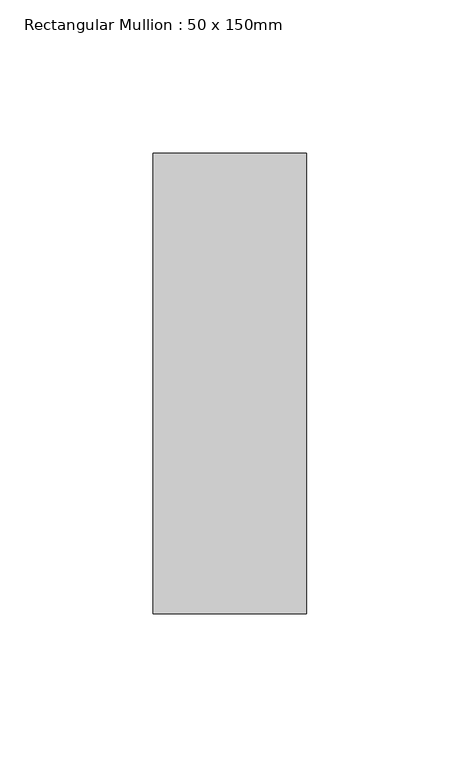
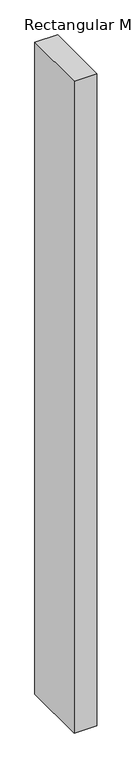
"""IFC4 building model written with IfcOpenShell, lengths in millimetres: member geometry, Rectangular Mullion : 50 x 150mm."""

from ifc_helpers import new_model, si_unit, frame, origin, place, context, project, spatial, polyline, outline, extrude, source, transform, mapped, element, save


def rectangular_mullion_50_x_150mm_40297ad3(model_context):
    return source(origin(), model_context, "Body", "SweptSolid", [
        extrude(outline(polyline([(25.0, 75.0), (25.0, -75.0), (-25.0, -75.0), (-25.0, 75.0), (25.0, 75.0)])), frame((0.0, 0.0, -1524.0), z_axis=(0.0, 0.0, 1.0), x_axis=(1.0, 0.0, 0.0)), (0.0, 0.0, 1.0), 1524.0),
    ])


if __name__ == "__main__":
    model = new_model("IFC4")
    model_context = context("Model", 3, world=origin())
    ifc_project = project(units=[si_unit("LENGTHUNIT", "METRE", prefix="MILLI")], contexts=[model_context])
    site = spatial("IfcSite", under=ifc_project)
    building = spatial("IfcBuilding", under=site)
    placement = place(None, origin())
    rectangular_mullion_50_x_150mm_shape = rectangular_mullion_50_x_150mm_40297ad3(model_context)
    element("IfcMember", 1, ObjectType="Rectangular Mullion : 50 x 150mm", at=placement, inside=building, context=model_context, shape_type="MappedRepresentation", body=[
        mapped(rectangular_mullion_50_x_150mm_shape, transform((0.0, 0.0, 0.0), x_axis=(1.0, 0.0, 0.0), y_axis=(0.0, 1.0, 0.0), z_axis=(0.0, 0.0, 1.0))),
    ])
    save(model, "model.ifc")
